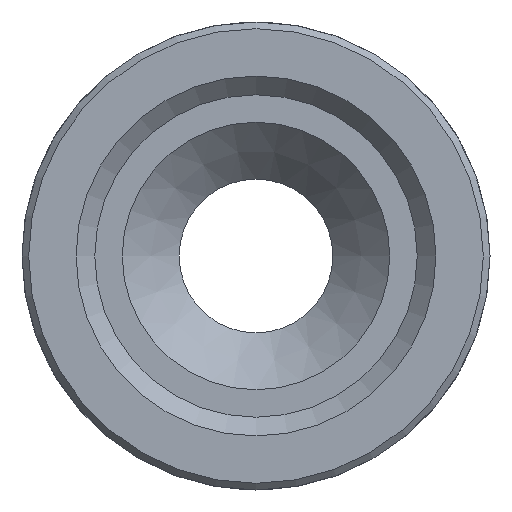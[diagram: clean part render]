
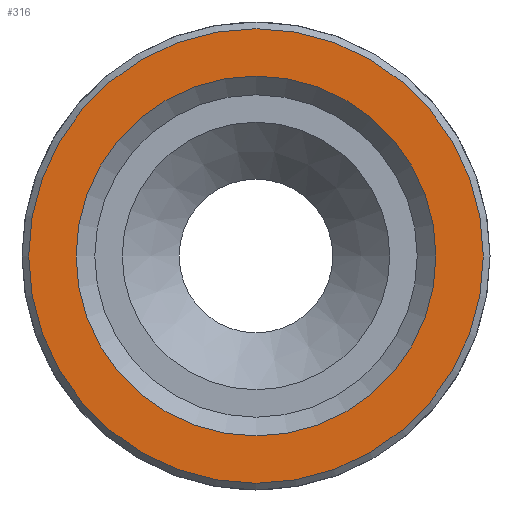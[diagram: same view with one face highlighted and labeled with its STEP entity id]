
A CAD part, front view. The second image highlights one B-rep face of the part: STEP entity #316.
In plain terms, the highlighted planar face has unit normal (0, -1, 0).
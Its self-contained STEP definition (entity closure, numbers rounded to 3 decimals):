
#316=ADVANCED_FACE('',(#2186,#2188),#2190,.F.);
#2186=FACE_BOUND('',#2187,.T.);
#2187=EDGE_LOOP('',(#4257));
#2188=FACE_BOUND('',#2189,.T.);
#2189=EDGE_LOOP('',(#4258));
#2190=PLANE('',#2191);
#2191=AXIS2_PLACEMENT_3D('',#2192,#2193,#2194);
#2192=CARTESIAN_POINT('',(0.,0.,0.));
#2193=DIRECTION('',(0.,1.,0.));
#2194=DIRECTION('',(-1.,0.,0.));
#4257=ORIENTED_EDGE('',*,*,#5140,.T.);
#4258=ORIENTED_EDGE('',*,*,#5164,.T.);
#5140=EDGE_CURVE('',#6398,#6398,#6399,.T.);
#5164=EDGE_CURVE('',#6445,#6445,#6446,.F.);
#6398=VERTEX_POINT('',#11050);
#6399=CIRCLE('',#11051,17.);
#6445=VERTEX_POINT('',#11148);
#6446=CIRCLE('',#11149,13.459);
#11050=CARTESIAN_POINT('',(17.,0.,0.));
#11051=AXIS2_PLACEMENT_3D('',#11052,#11053,#11054);
#11052=CARTESIAN_POINT('',(0.,0.,0.));
#11053=DIRECTION('',(0.,-1.,0.));
#11054=DIRECTION('',(1.,0.,0.));
#11148=CARTESIAN_POINT('',(13.459,0.,0.));
#11149=AXIS2_PLACEMENT_3D('',#11150,#11151,#11152);
#11150=CARTESIAN_POINT('',(0.,0.,0.));
#11151=DIRECTION('',(0.,-1.,0.));
#11152=DIRECTION('',(1.,0.,0.));
